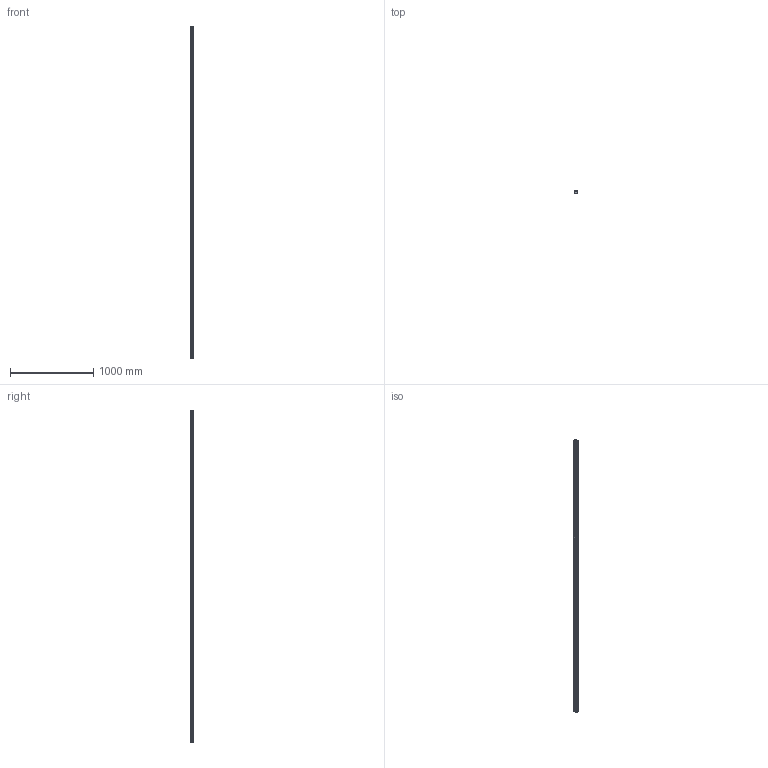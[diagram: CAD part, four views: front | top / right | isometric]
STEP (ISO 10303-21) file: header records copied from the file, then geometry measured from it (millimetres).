
FILE_DESCRIPTION((''),'2;1');
FILE_NAME('ROLLENSCHIENE_C','2021-12-23T05:46:22',('ac91sw'),(''),'CREO PARAMETRIC BY PTC INC, 2020044','CREO PARAMETRIC BY PTC INC, 2020044','');
FILE_SCHEMA(('AUTOMOTIVE_DESIGN { 1 0 10303 214 1 1 1 1 }'));
Length unit declared in the file: millimetre
Products named in the file (3): ROLLENSCHIENE_C_SKEL; ROLLENSCHIENE_C_RAIL1; ROLLENSCHIENE_C
Assembly tree (2 placements, depth 2):
  ROLLENSCHIENE_C
    ROLLENSCHIENE_C_SKEL
    ROLLENSCHIENE_C_RAIL1
Bounding box: 45 x 38.8 x 3986 mm (x, y, z)
Volume: 5115082.3 mm3; surface area: 745392.8 mm2
Topology: 1 solids, 1 shells, 364 faces, 1048 edges, 834 vertices
Faces by surface type: cylinder 152, cone 152, plane 60
Entity records: 11277 total; most frequent: DIRECTION 1986, CARTESIAN_POINT 1827, ORIENTED_EDGE 1492, EDGE_CURVE 746, AXIS2_PLACEMENT_3D 697, VECTOR 592, LINE 592, VERTEX_POINT 460
